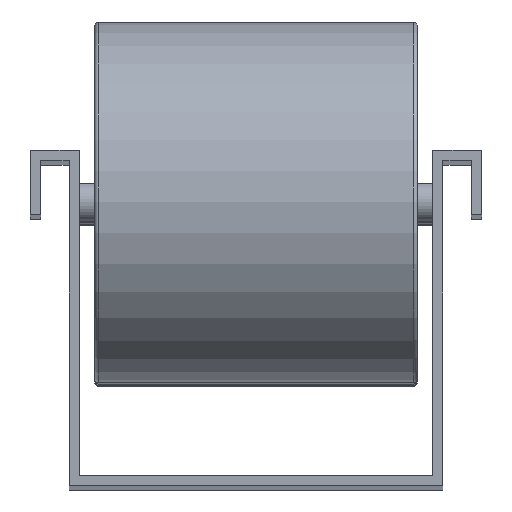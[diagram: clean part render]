
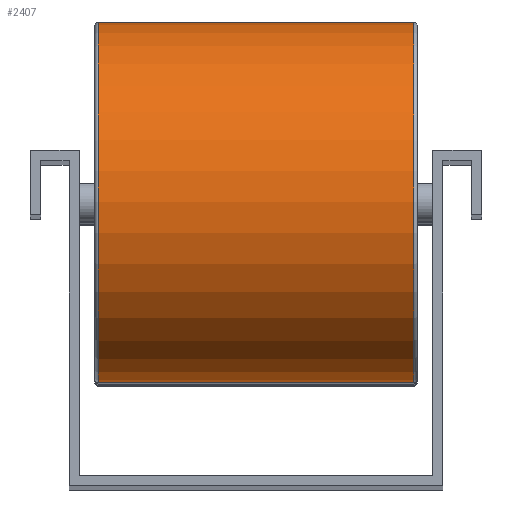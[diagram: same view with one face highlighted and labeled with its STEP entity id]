
A CAD part, top view. The second image highlights one B-rep face of the part: STEP entity #2407.
In plain terms, the highlighted cylindrical face has radius 14 mm (diameter 28 mm), a partial arc.
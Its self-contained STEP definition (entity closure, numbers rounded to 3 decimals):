
#24 = CARTESIAN_POINT ( 'NONE',  ( -12.25, 95., 88. ) ) ;
#195 = ORIENTED_EDGE ( 'NONE', *, *, #1349, .T. ) ;
#214 = VECTOR ( 'NONE', #1079, 1000. ) ;
#253 = CYLINDRICAL_SURFACE ( 'NONE', #834, 14. ) ;
#259 = VERTEX_POINT ( 'NONE', #24 ) ;
#260 = DIRECTION ( 'NONE',  ( -1., 0., 0. ) ) ;
#315 = AXIS2_PLACEMENT_3D ( 'NONE', #3005, #2246, #1740 ) ;
#510 = LINE ( 'NONE', #1458, #2235 ) ;
#614 = CARTESIAN_POINT ( 'NONE',  ( 12.25, 109., 88. ) ) ;
#707 = FACE_OUTER_BOUND ( 'NONE', #737, .T. ) ;
#737 = EDGE_LOOP ( 'NONE', ( #1460, #2223, #2161, #195 ) ) ;
#834 = AXIS2_PLACEMENT_3D ( 'NONE', #1645, #1665, #3138 ) ;
#864 = CARTESIAN_POINT ( 'NONE',  ( 12.25, 95., 88. ) ) ;
#952 = VERTEX_POINT ( 'NONE', #3071 ) ;
#1008 = VERTEX_POINT ( 'NONE', #1128 ) ;
#1079 = DIRECTION ( 'NONE',  ( 1., 0., 0. ) ) ;
#1128 = CARTESIAN_POINT ( 'NONE',  ( -12.25, 123., 88. ) ) ;
#1272 = CIRCLE ( 'NONE', #2068, 14. ) ;
#1321 = LINE ( 'NONE', #1856, #214 ) ;
#1349 = EDGE_CURVE ( 'NONE', #1008, #259, #2873, .T. ) ;
#1458 = CARTESIAN_POINT ( 'NONE',  ( 0., 95., 88. ) ) ;
#1460 = ORIENTED_EDGE ( 'NONE', *, *, #2220, .F. ) ;
#1645 = CARTESIAN_POINT ( 'NONE',  ( 0., 109., 88. ) ) ;
#1661 = EDGE_CURVE ( 'NONE', #2108, #952, #1272, .T. ) ;
#1665 = DIRECTION ( 'NONE',  ( 1., 0., 0. ) ) ;
#1740 = DIRECTION ( 'NONE',  ( 0., 1., 0. ) ) ;
#1822 = EDGE_CURVE ( 'NONE', #1008, #952, #1321, .T. ) ;
#1856 = CARTESIAN_POINT ( 'NONE',  ( 0., 123., 88. ) ) ;
#2068 = AXIS2_PLACEMENT_3D ( 'NONE', #614, #2774, #2165 ) ;
#2108 = VERTEX_POINT ( 'NONE', #864 ) ;
#2161 = ORIENTED_EDGE ( 'NONE', *, *, #1822, .F. ) ;
#2165 = DIRECTION ( 'NONE',  ( 0., -1., 0. ) ) ;
#2220 = EDGE_CURVE ( 'NONE', #2108, #259, #510, .T. ) ;
#2223 = ORIENTED_EDGE ( 'NONE', *, *, #1661, .T. ) ;
#2235 = VECTOR ( 'NONE', #260, 1000. ) ;
#2246 = DIRECTION ( 'NONE',  ( 1., 0., 0. ) ) ;
#2407 = ADVANCED_FACE ( 'NONE', ( #707 ), #253, .T. ) ;
#2774 = DIRECTION ( 'NONE',  ( -1., 0., 0. ) ) ;
#2873 = CIRCLE ( 'NONE', #315, 14. ) ;
#3005 = CARTESIAN_POINT ( 'NONE',  ( -12.25, 109., 88. ) ) ;
#3071 = CARTESIAN_POINT ( 'NONE',  ( 12.25, 123., 88. ) ) ;
#3138 = DIRECTION ( 'NONE',  ( 0., 1., 0. ) ) ;
